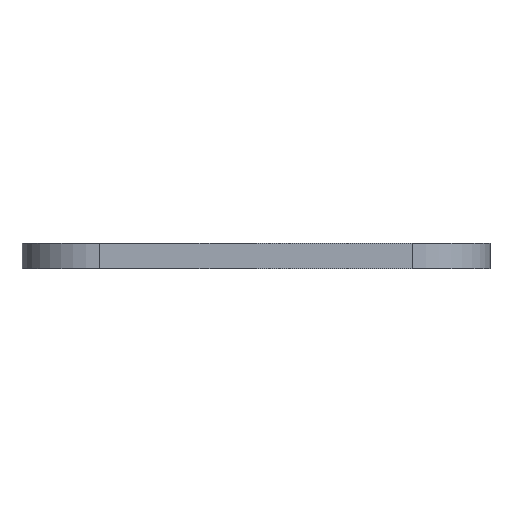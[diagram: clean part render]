
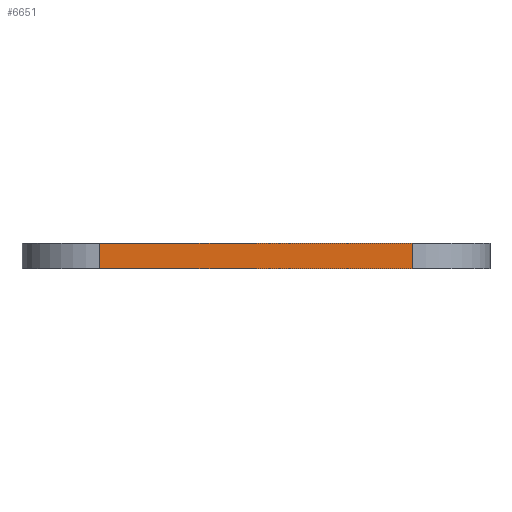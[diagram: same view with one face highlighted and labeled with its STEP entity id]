
A CAD part, left-side view. The second image highlights one B-rep face of the part: STEP entity #6651.
In plain terms, the highlighted planar face has unit normal (-1, 0, 0).
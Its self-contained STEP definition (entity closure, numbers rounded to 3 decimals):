
#117=CARTESIAN_POINT('Vertex',(-30.,20.,0.)) ;
#120=CARTESIAN_POINT('Line Origine',(-30.,0.,0.)) ;
#124=CARTESIAN_POINT('Vertex',(-30.,-20.,0.)) ;
#6613=CARTESIAN_POINT('Vertex',(-30.,20.,-3.33)) ;
#6616=CARTESIAN_POINT('Line Origine',(-30.,20.,-1.665)) ;
#6628=CARTESIAN_POINT('Axis2P3D Location',(-30.,-20.,0.)) ;
#6633=CARTESIAN_POINT('Line Origine',(-30.,0.,-3.33)) ;
#6637=CARTESIAN_POINT('Vertex',(-30.,-20.,-3.33)) ;
#6640=CARTESIAN_POINT('Line Origine',(-30.,-20.,-1.665)) ;
#121=DIRECTION('Vector Direction',(0.,1.,0.)) ;
#6617=DIRECTION('Vector Direction',(0.,0.,1.)) ;
#6629=DIRECTION('Axis2P3D Direction',(-1.,0.,0.)) ;
#6630=DIRECTION('Axis2P3D XDirection',(0.,1.,0.)) ;
#6634=DIRECTION('Vector Direction',(0.,1.,0.)) ;
#6641=DIRECTION('Vector Direction',(0.,0.,-1.)) ;
#6631=AXIS2_PLACEMENT_3D('Plane Axis2P3D',#6628,#6629,#6630) ;
#6646=ORIENTED_EDGE('',*,*,#6639,.T.) ;
#6647=ORIENTED_EDGE('',*,*,#6644,.F.) ;
#6648=ORIENTED_EDGE('',*,*,#126,.F.) ;
#6649=ORIENTED_EDGE('',*,*,#6620,.T.) ;
#122=VECTOR('Line Direction',#121,1.) ;
#6618=VECTOR('Line Direction',#6617,1.) ;
#6635=VECTOR('Line Direction',#6634,1.) ;
#6642=VECTOR('Line Direction',#6641,1.) ;
#6651=ADVANCED_FACE('PartBody',(#6650),#6632,.T.) ;
#126=EDGE_CURVE('',#118,#125,#123,.F.) ;
#6620=EDGE_CURVE('',#118,#6614,#6619,.F.) ;
#6639=EDGE_CURVE('',#6614,#6638,#6636,.F.) ;
#6644=EDGE_CURVE('',#125,#6638,#6643,.T.) ;
#6645=EDGE_LOOP('',(#6646,#6647,#6648,#6649)) ;
#6650=FACE_OUTER_BOUND('',#6645,.T.) ;
#123=LINE('Line',#120,#122) ;
#6619=LINE('Line',#6616,#6618) ;
#6636=LINE('Line',#6633,#6635) ;
#6643=LINE('Line',#6640,#6642) ;
#6632=PLANE('',#6631) ;
#118=VERTEX_POINT('',#117) ;
#125=VERTEX_POINT('',#124) ;
#6614=VERTEX_POINT('',#6613) ;
#6638=VERTEX_POINT('',#6637) ;
